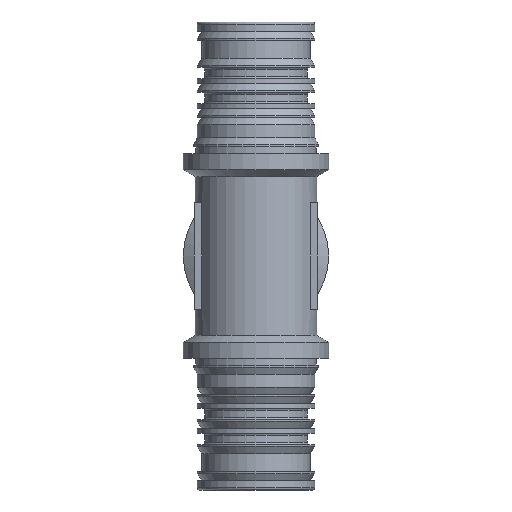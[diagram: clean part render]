
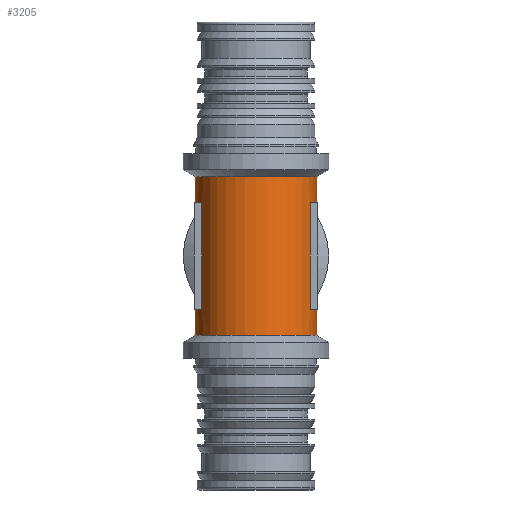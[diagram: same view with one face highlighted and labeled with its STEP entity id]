
A CAD part, front view. The second image highlights one B-rep face of the part: STEP entity #3205.
In plain terms, the highlighted cylindrical face has radius 13.35 mm (diameter 26.7 mm), a full revolution.
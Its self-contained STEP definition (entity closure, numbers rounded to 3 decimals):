
#66=FACE_BOUND('',#442,.T.);
#250=FACE_OUTER_BOUND('',#441,.T.);
#441=EDGE_LOOP('',(#2363,#2364,#2365,#2366,#2367,#2368));
#442=EDGE_LOOP('',(#2369,#2370,#2371,#2372,#2373,#2374,#2375,#2376,#2377,
#2378,#2379,#2380,#2381));
#688=CIRCLE('',#3493,13.35);
#689=CIRCLE('',#3494,13.35);
#690=CIRCLE('',#3495,13.35);
#691=CIRCLE('',#3496,13.35);
#692=CIRCLE('',#3497,13.35);
#693=CIRCLE('',#3498,13.35);
#694=CIRCLE('',#3499,13.35);
#695=CIRCLE('',#3500,13.35);
#907=LINE('',#5160,#1111);
#908=LINE('',#5165,#1112);
#909=LINE('',#5169,#1113);
#910=LINE('',#5172,#1114);
#911=LINE('',#5174,#1115);
#912=LINE('',#5178,#1116);
#913=LINE('',#5181,#1117);
#1111=VECTOR('',#4110,13.35);
#1112=VECTOR('',#4115,10.);
#1113=VECTOR('',#4118,10.);
#1114=VECTOR('',#4121,10.);
#1115=VECTOR('',#4122,10.);
#1116=VECTOR('',#4125,10.);
#1117=VECTOR('',#4128,10.);
#1280=ELLIPSE('',#3361,18.88,13.35);
#1281=ELLIPSE('',#3363,18.88,13.35);
#1282=ELLIPSE('',#3365,18.88,13.35);
#1286=VERTEX_POINT('',#4897);
#1287=VERTEX_POINT('',#4898);
#1290=VERTEX_POINT('',#4904);
#1291=VERTEX_POINT('',#4906);
#1294=VERTEX_POINT('',#4912);
#1377=VERTEX_POINT('',#5155);
#1378=VERTEX_POINT('',#5156);
#1379=VERTEX_POINT('',#5159);
#1380=VERTEX_POINT('',#5161);
#1381=VERTEX_POINT('',#5164);
#1382=VERTEX_POINT('',#5166);
#1383=VERTEX_POINT('',#5168);
#1384=VERTEX_POINT('',#5170);
#1385=VERTEX_POINT('',#5173);
#1386=VERTEX_POINT('',#5175);
#1387=VERTEX_POINT('',#5177);
#1388=VERTEX_POINT('',#5179);
#1639=EDGE_CURVE('',#1286,#1287,#1280,.T.);
#1643=EDGE_CURVE('',#1291,#1290,#1281,.T.);
#1647=EDGE_CURVE('',#1287,#1294,#1282,.T.);
#1762=EDGE_CURVE('',#1377,#1378,#688,.T.);
#1763=EDGE_CURVE('',#1378,#1377,#689,.T.);
#1764=EDGE_CURVE('',#1378,#1379,#907,.T.);
#1765=EDGE_CURVE('',#1379,#1380,#690,.T.);
#1766=EDGE_CURVE('',#1380,#1379,#691,.T.);
#1767=EDGE_CURVE('',#1381,#1290,#908,.T.);
#1768=EDGE_CURVE('',#1382,#1381,#692,.T.);
#1769=EDGE_CURVE('',#1383,#1382,#909,.T.);
#1770=EDGE_CURVE('',#1384,#1383,#693,.T.);
#1771=EDGE_CURVE('',#1286,#1384,#910,.T.);
#1772=EDGE_CURVE('',#1385,#1294,#911,.T.);
#1773=EDGE_CURVE('',#1386,#1385,#694,.T.);
#1774=EDGE_CURVE('',#1387,#1386,#912,.T.);
#1775=EDGE_CURVE('',#1388,#1387,#695,.T.);
#1776=EDGE_CURVE('',#1291,#1388,#913,.T.);
#2363=ORIENTED_EDGE('',*,*,#1762,.F.);
#2364=ORIENTED_EDGE('',*,*,#1763,.F.);
#2365=ORIENTED_EDGE('',*,*,#1764,.T.);
#2366=ORIENTED_EDGE('',*,*,#1765,.T.);
#2367=ORIENTED_EDGE('',*,*,#1766,.T.);
#2368=ORIENTED_EDGE('',*,*,#1764,.F.);
#2369=ORIENTED_EDGE('',*,*,#1643,.T.);
#2370=ORIENTED_EDGE('',*,*,#1767,.F.);
#2371=ORIENTED_EDGE('',*,*,#1768,.F.);
#2372=ORIENTED_EDGE('',*,*,#1769,.F.);
#2373=ORIENTED_EDGE('',*,*,#1770,.F.);
#2374=ORIENTED_EDGE('',*,*,#1771,.F.);
#2375=ORIENTED_EDGE('',*,*,#1639,.T.);
#2376=ORIENTED_EDGE('',*,*,#1647,.T.);
#2377=ORIENTED_EDGE('',*,*,#1772,.F.);
#2378=ORIENTED_EDGE('',*,*,#1773,.F.);
#2379=ORIENTED_EDGE('',*,*,#1774,.F.);
#2380=ORIENTED_EDGE('',*,*,#1775,.F.);
#2381=ORIENTED_EDGE('',*,*,#1776,.F.);
#3131=CYLINDRICAL_SURFACE('',#3492,13.35);
#3205=ADVANCED_FACE('',(#250,#66),#3131,.T.);
#3361=AXIS2_PLACEMENT_3D('',#4899,#3807,#3808);
#3363=AXIS2_PLACEMENT_3D('',#4907,#3813,#3814);
#3365=AXIS2_PLACEMENT_3D('',#4914,#3819,#3820);
#3492=AXIS2_PLACEMENT_3D('',#5154,#4104,#4105);
#3493=AXIS2_PLACEMENT_3D('',#5157,#4106,#4107);
#3494=AXIS2_PLACEMENT_3D('',#5158,#4108,#4109);
#3495=AXIS2_PLACEMENT_3D('',#5162,#4111,#4112);
#3496=AXIS2_PLACEMENT_3D('',#5163,#4113,#4114);
#3497=AXIS2_PLACEMENT_3D('',#5167,#4116,#4117);
#3498=AXIS2_PLACEMENT_3D('',#5171,#4119,#4120);
#3499=AXIS2_PLACEMENT_3D('',#5176,#4123,#4124);
#3500=AXIS2_PLACEMENT_3D('',#5180,#4126,#4127);
#3807=DIRECTION('center_axis',(0.,-0.707,-0.707));
#3808=DIRECTION('ref_axis',(0.,-0.707,0.707));
#3813=DIRECTION('center_axis',(0.,-0.707,0.707));
#3814=DIRECTION('ref_axis',(0.,0.707,0.707));
#3819=DIRECTION('center_axis',(0.,-0.707,-0.707));
#3820=DIRECTION('ref_axis',(0.,-0.707,0.707));
#4104=DIRECTION('center_axis',(0.,0.,-1.));
#4105=DIRECTION('ref_axis',(0.,1.,0.));
#4106=DIRECTION('center_axis',(0.,0.,-1.));
#4107=DIRECTION('ref_axis',(1.,0.,0.));
#4108=DIRECTION('center_axis',(0.,0.,-1.));
#4109=DIRECTION('ref_axis',(1.,0.,0.));
#4110=DIRECTION('',(0.,0.,1.));
#4111=DIRECTION('center_axis',(0.,0.,-1.));
#4112=DIRECTION('ref_axis',(1.,0.,0.));
#4113=DIRECTION('center_axis',(0.,0.,-1.));
#4114=DIRECTION('ref_axis',(1.,0.,0.));
#4115=DIRECTION('',(0.,0.,-1.));
#4116=DIRECTION('center_axis',(0.,0.,-1.));
#4117=DIRECTION('ref_axis',(0.,1.,0.));
#4118=DIRECTION('',(0.,0.,1.));
#4119=DIRECTION('center_axis',(0.,0.,1.));
#4120=DIRECTION('ref_axis',(0.,1.,0.));
#4121=DIRECTION('',(0.,0.,-1.));
#4122=DIRECTION('',(0.,0.,1.));
#4123=DIRECTION('center_axis',(0.,0.,1.));
#4124=DIRECTION('ref_axis',(0.,1.,0.));
#4125=DIRECTION('',(0.,0.,-1.));
#4126=DIRECTION('center_axis',(0.,0.,-1.));
#4127=DIRECTION('ref_axis',(0.,1.,0.));
#4128=DIRECTION('',(0.,0.,1.));
#4897=CARTESIAN_POINT('',(-11.926,6.,45.5));
#4898=CARTESIAN_POINT('',(0.,13.35,38.15));
#4899=CARTESIAN_POINT('Origin',(0.,0.,51.5));
#4904=CARTESIAN_POINT('',(-11.926,6.,57.5));
#4906=CARTESIAN_POINT('',(11.926,6.,57.5));
#4907=CARTESIAN_POINT('Origin',(0.,0.,51.5));
#4912=CARTESIAN_POINT('',(11.926,6.,45.5));
#4914=CARTESIAN_POINT('Origin',(0.,0.,51.5));
#5154=CARTESIAN_POINT('Origin',(0.,0.,42.765));
#5155=CARTESIAN_POINT('',(0.,13.35,34.03));
#5156=CARTESIAN_POINT('',(0.,-13.35,34.03));
#5157=CARTESIAN_POINT('Origin',(0.,0.,34.03));
#5158=CARTESIAN_POINT('Origin',(0.,0.,34.03));
#5159=CARTESIAN_POINT('',(0.,-13.35,68.97));
#5160=CARTESIAN_POINT('',(0.,-13.35,42.765));
#5161=CARTESIAN_POINT('',(0.,13.35,68.97));
#5162=CARTESIAN_POINT('Origin',(0.,0.,68.97));
#5163=CARTESIAN_POINT('Origin',(0.,0.,68.97));
#5164=CARTESIAN_POINT('',(-11.926,6.,63.25));
#5165=CARTESIAN_POINT('',(-11.926,6.,42.765));
#5166=CARTESIAN_POINT('',(-11.926,-6.,63.25));
#5167=CARTESIAN_POINT('Origin',(0.,0.,63.25));
#5168=CARTESIAN_POINT('',(-11.926,-6.,39.75));
#5169=CARTESIAN_POINT('',(-11.926,-6.,42.765));
#5170=CARTESIAN_POINT('',(-11.926,6.,39.75));
#5171=CARTESIAN_POINT('Origin',(0.,0.,39.75));
#5172=CARTESIAN_POINT('',(-11.926,6.,42.765));
#5173=CARTESIAN_POINT('',(11.926,6.,39.75));
#5174=CARTESIAN_POINT('',(11.926,6.,42.765));
#5175=CARTESIAN_POINT('',(11.926,-6.,39.75));
#5176=CARTESIAN_POINT('Origin',(0.,0.,39.75));
#5177=CARTESIAN_POINT('',(11.926,-6.,63.25));
#5178=CARTESIAN_POINT('',(11.926,-6.,42.765));
#5179=CARTESIAN_POINT('',(11.926,6.,63.25));
#5180=CARTESIAN_POINT('Origin',(0.,0.,63.25));
#5181=CARTESIAN_POINT('',(11.926,6.,42.765));
